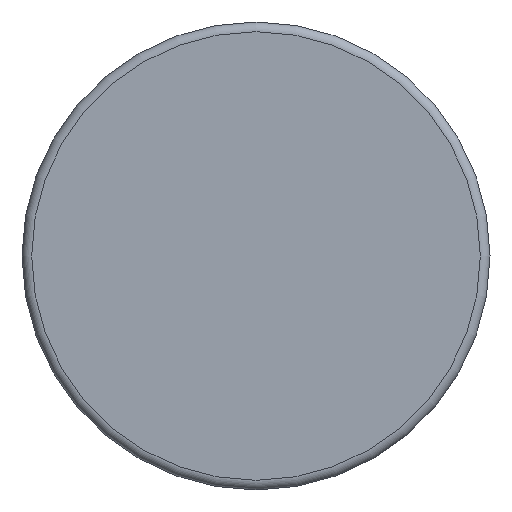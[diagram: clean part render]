
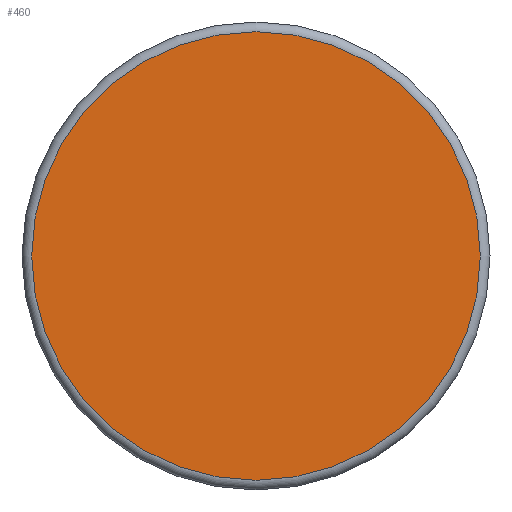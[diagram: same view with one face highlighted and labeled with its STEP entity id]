
A CAD part, top view. The second image highlights one B-rep face of the part: STEP entity #460.
In plain terms, the highlighted planar face has unit normal (0, 0, 1).
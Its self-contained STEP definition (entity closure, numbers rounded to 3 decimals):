
#429=CARTESIAN_POINT('',(230.05,0.,454.));
#430=VERTEX_POINT('',#429);
#431=CARTESIAN_POINT('',(0.,0.,454.));
#432=DIRECTION('',(0.0,0.0,-1.0));
#433=DIRECTION('',(-1.0,0.0,0.0));
#434=AXIS2_PLACEMENT_3D('',#431,#432,#433);
#435=CIRCLE('',#434,230.05);
#436=EDGE_CURVE('',#430,#430,#435,.T.);
#452=CARTESIAN_POINT('',(0.,0.,454.));
#453=DIRECTION('',(0.0,0.0,-1.0));
#454=DIRECTION('',(1.0,0.0,0.0));
#455=AXIS2_PLACEMENT_3D('',#452,#453,#454);
#456=PLANE('',#455);
#457=ORIENTED_EDGE('',*,*,#436,.F.);
#458=EDGE_LOOP('',(#457));
#459=FACE_OUTER_BOUND('',#458,.T.);
#460=ADVANCED_FACE('',(#459),#456,.F.);
